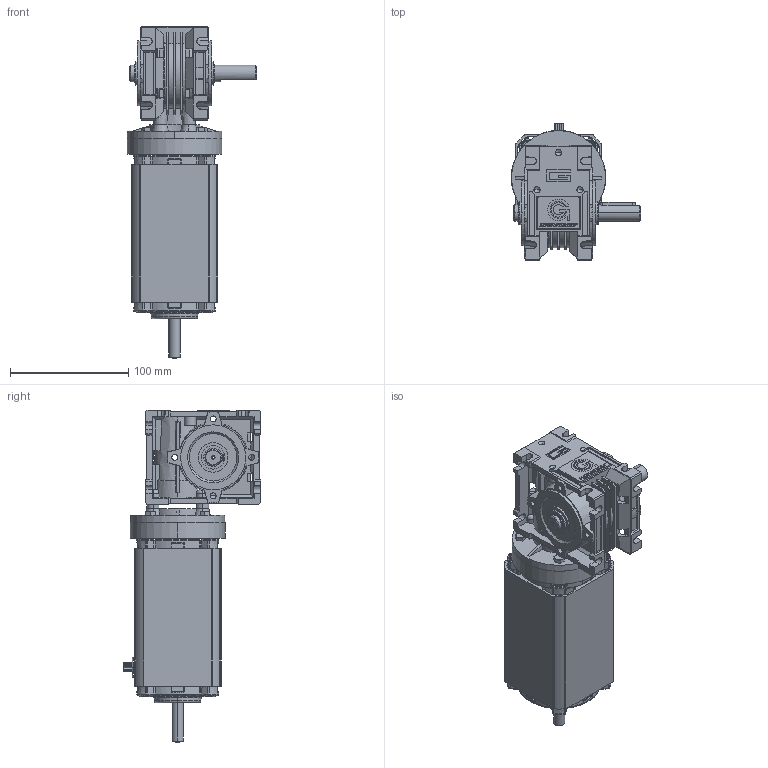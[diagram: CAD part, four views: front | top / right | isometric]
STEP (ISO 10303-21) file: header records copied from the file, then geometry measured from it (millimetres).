
FILE_DESCRIPTION (( 'STEP AP214' ), '1' );
FILE_NAME ('BL6540-RA3000T.STEP', '2013-01-29T15:22:34', ( '' ), ( '' ), 'SwSTEP 2.0', 'SolidWorks 2013', '' );
FILE_SCHEMA (( 'AUTOMOTIVE_DESIGN' ));
Length unit declared in the file: inch
Products named in the file (1): BL6540-RA3000T
Bounding box: 109.55 x 115.87 x 280.71 mm (x, y, z)
Surface area: 161825.8 mm2 (no closed solid volume)
Topology: 0 solids, 70 shells, 1560 faces, 5648 edges, 4013 vertices
Faces by surface type: plane 714, cylinder 332, cone 303, torus 141, bspline 63, sphere 7
Entity records: 89258 total; most frequent: CARTESIAN_POINT 22629, DIRECTION 9375, ORIENTED_EDGE 9141, EDGE_CURVE 5639, VERTEX_POINT 4013, AXIS2_PLACEMENT_3D 3291, LINE 2793, VECTOR 2793
